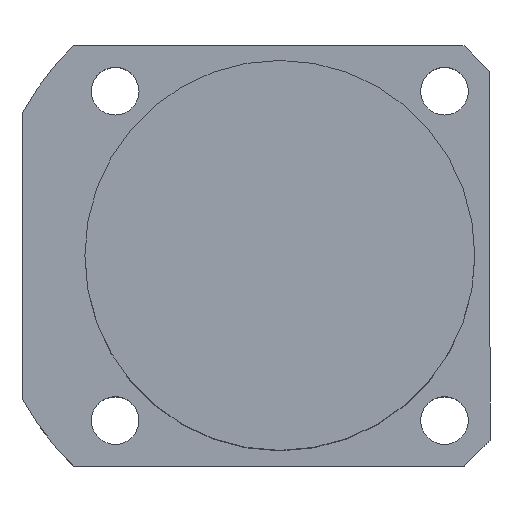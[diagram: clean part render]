
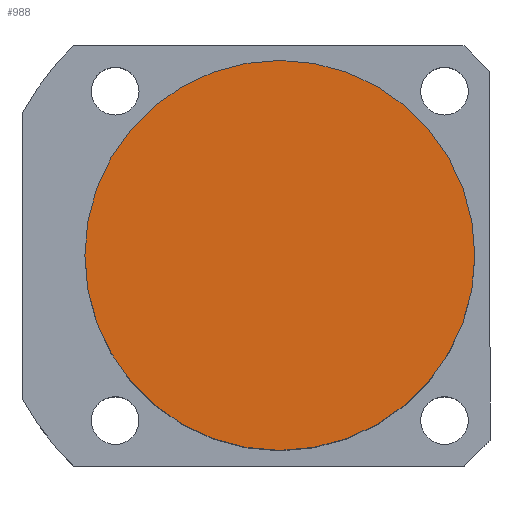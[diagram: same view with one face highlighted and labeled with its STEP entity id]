
A CAD part, top view. The second image highlights one B-rep face of the part: STEP entity #988.
In plain terms, the highlighted planar face has unit normal (0, 0, 1).
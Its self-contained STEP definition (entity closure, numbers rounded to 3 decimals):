
#61 = CARTESIAN_POINT ( 'NONE',  ( 0., 0., 79.5 ) ) ;
#189 = ORIENTED_EDGE ( 'NONE', *, *, #321, .T. ) ;
#195 = DIRECTION ( 'NONE',  ( 1., 0., 0. ) ) ;
#196 = VERTEX_POINT ( 'NONE', #1312 ) ;
#211 = DIRECTION ( 'NONE',  ( 1., 0., 0. ) ) ;
#287 = CIRCLE ( 'NONE', #1344, 45. ) ;
#321 = EDGE_CURVE ( 'NONE', #196, #1112, #1155, .T. ) ;
#500 = ORIENTED_EDGE ( 'NONE', *, *, #1300, .T. ) ;
#764 = DIRECTION ( 'NONE',  ( 1., 0., 0. ) ) ;
#837 = CARTESIAN_POINT ( 'NONE',  ( -45., 0., 79.5 ) ) ;
#915 = CARTESIAN_POINT ( 'NONE',  ( 0., 0., 79.5 ) ) ;
#940 = DIRECTION ( 'NONE',  ( 0., 0., 1. ) ) ;
#988 = ADVANCED_FACE ( 'NONE', ( #1918 ), #1099, .T. ) ;
#1085 = DIRECTION ( 'NONE',  ( 0., 0., 1. ) ) ;
#1099 = PLANE ( 'NONE',  #1358 ) ;
#1112 = VERTEX_POINT ( 'NONE', #837 ) ;
#1155 = CIRCLE ( 'NONE', #1572, 45. ) ;
#1300 = EDGE_CURVE ( 'NONE', #1112, #196, #287, .T. ) ;
#1312 = CARTESIAN_POINT ( 'NONE',  ( 45., 0., 79.5 ) ) ;
#1344 = AXIS2_PLACEMENT_3D ( 'NONE', #915, #1675, #195 ) ;
#1358 = AXIS2_PLACEMENT_3D ( 'NONE', #1383, #1085, #211 ) ;
#1383 = CARTESIAN_POINT ( 'NONE',  ( 0., 0., 79.5 ) ) ;
#1572 = AXIS2_PLACEMENT_3D ( 'NONE', #61, #940, #764 ) ;
#1675 = DIRECTION ( 'NONE',  ( 0., 0., 1. ) ) ;
#1918 = FACE_OUTER_BOUND ( 'NONE', #1919, .T. ) ;
#1919 = EDGE_LOOP ( 'NONE', ( #500, #189 ) ) ;
